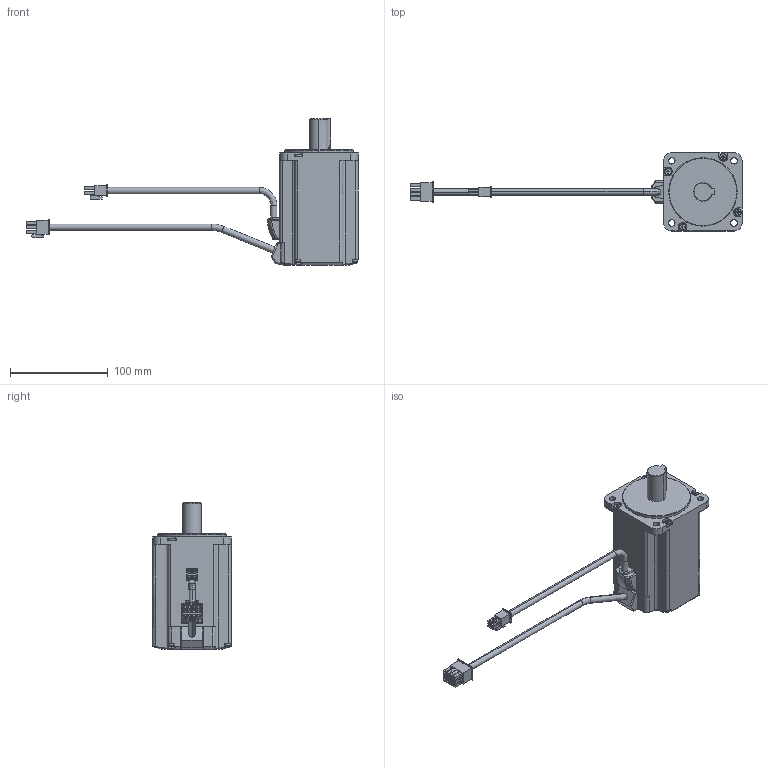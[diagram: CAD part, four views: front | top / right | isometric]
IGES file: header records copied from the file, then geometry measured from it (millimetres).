
Start section:  PTC IGES file: RSMZ-06BA1ANK7.igs
Global section: file name: RSMZ-06BA1ANK7.igs; native system: Pro/ENGINEER by Parametric Technology Corporation; preprocessor: 2004440; author: Administrator; organization: Unknown; date: 070904.190527; units: millimetre
Bounding box: 339.76 x 80 x 150 mm (x, y, z)
Volume: 675387.7 mm3; surface area: 67424.3 mm2
Topology: 1 solids, 1 shells, 494 faces, 1248 edges, 810 vertices
Faces by surface type: bspline 354, revolution 140
